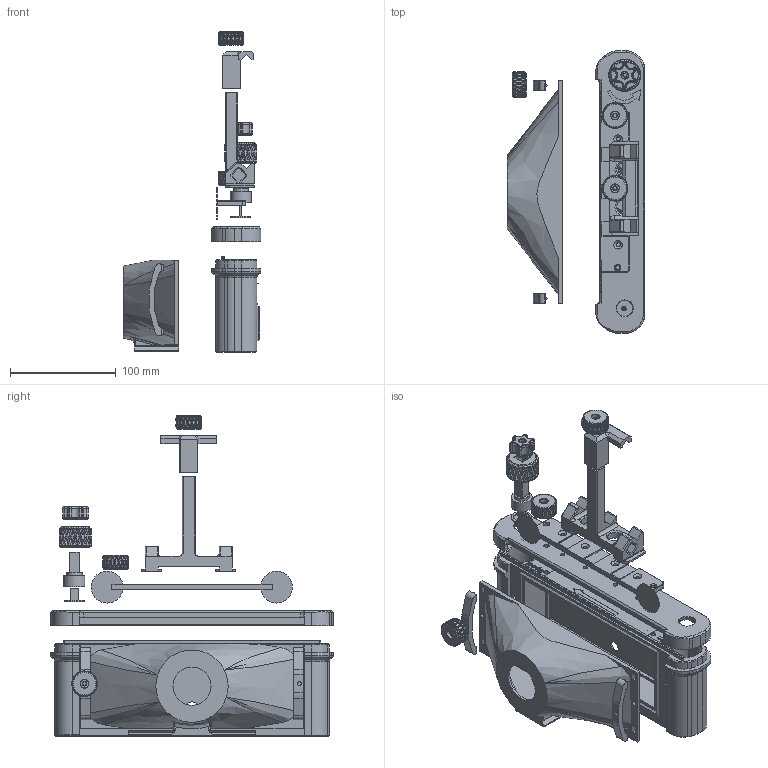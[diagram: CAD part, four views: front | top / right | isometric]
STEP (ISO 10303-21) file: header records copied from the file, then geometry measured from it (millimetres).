
FILE_DESCRIPTION(/* description */ (''),/* implementation_level */ '2;1');
FILE_NAME(/* name */ 'C:/Users/mcjor/Documents/3D objects/6x17 Camera/6x17/v9/v9.stp',/* time_stamp */ '2025-05-04T21:20:16+02:00',/* author */ (''),/* organization */ (''),/* preprocessor_version */ 'ST-DEVELOPER v15.2',/* originating_system */ 'Autodesk Translator Framework v2.0.0.5431',/* authorisation */ '');
FILE_SCHEMA (('AUTOMOTIVE_DESIGN { 1 0 10303 214 3 1 1 }'));
Products named in the file (1): v9
Bounding box: 130.23 x 267 x 303.05 mm (x, y, z)
Volume: 636799.9 mm3; surface area: 266375.6 mm2
Topology: 16 solids, 17 shells, 3078 faces, 7528 edges, 4573 vertices
Faces by surface type: plane 1866, cylinder 486, torus 344, bspline 258, cone 117, sphere 7
Full cylindrical faces by diameter (mm): 0.039 x1, 1 x28, 3.4 x1, 3.5 x3, 3.6 x3, 3.9 x8, 4 x6, 4.039 x6, 4.6 x3, 6.4 x1, 7.7 x3, 10 x1, 14 x3, 14.5 x1, 15 x2, 15.1 x1, 19.2 x1, 20 x1, 21.2 x2, 27.15 x2, 36 x1
Entity records: 94990 total; most frequent: CARTESIAN_POINT 27220, ORIENTED_EDGE 14736, DIRECTION 13088, EDGE_CURVE 7368, AXIS2_PLACEMENT_3D 4782, VERTEX_POINT 4549, LINE 3524, VECTOR 3524
